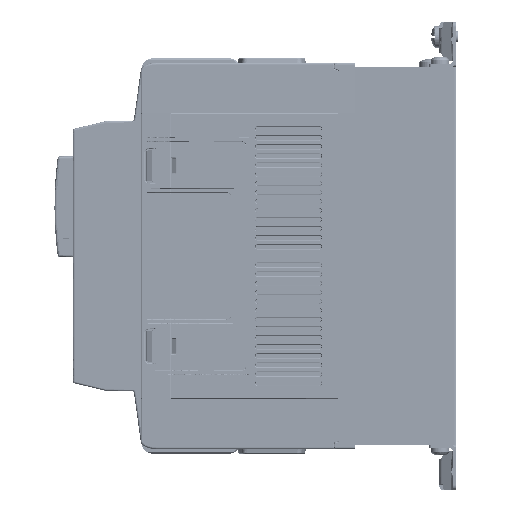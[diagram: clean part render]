
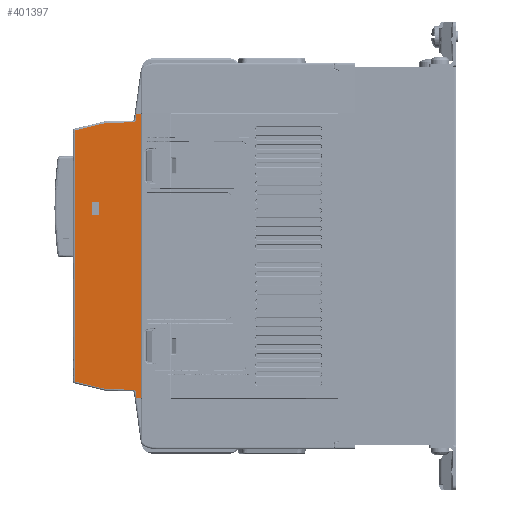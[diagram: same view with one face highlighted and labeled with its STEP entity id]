
A CAD part, front view. The second image highlights one B-rep face of the part: STEP entity #401397.
In plain terms, the highlighted free-form (B-spline) face has degree [1, 1] with [2, 2] control points.
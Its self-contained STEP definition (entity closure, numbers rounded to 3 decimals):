
#400379=CARTESIAN_POINT('',(-139.,1.14,20.58));
#400380=VERTEX_POINT('',#400379);
#400381=CARTESIAN_POINT('',(-140.806,1.155,20.596));
#400382=VERTEX_POINT('',#400381);
#400383=CARTESIAN_POINT('',(-140.806,1.155,20.596));
#400384=DIRECTION('',(1.,-0.009,-0.009));
#400385=VECTOR('',#400384,1.806);
#400386=LINE('',#400383,#400385);
#400387=EDGE_CURVE('',#400380,#400382,#400386,.F.);
#400468=CARTESIAN_POINT('',(-141.202,1.159,23.453));
#400469=VERTEX_POINT('',#400468);
#400470=CARTESIAN_POINT('',(-141.202,1.159,23.453));
#400471=DIRECTION('',(0.137,-0.001,-0.991));
#400472=VECTOR('',#400471,2.885);
#400473=LINE('',#400470,#400472);
#400474=EDGE_CURVE('',#400469,#400382,#400473,.T.);
#400595=CARTESIAN_POINT('',(-142.282,1.168,24.402));
#400596=VERTEX_POINT('',#400595);
#400597=CARTESIAN_POINT('',(-142.292,1.168,23.302));
#400598=DIRECTION('',(0.009,1.,0.));
#400599=DIRECTION('',(1.,-0.009,0.));
#400600=AXIS2_PLACEMENT_3D('',#400597,#400598,#400599);
#400601=ELLIPSE('',#400600,1.1,1.1);
#400602=EDGE_CURVE('',#400596,#400469,#400601,.T.);
#400619=CARTESIAN_POINT('',(-153.706,1.268,24.502));
#400620=VERTEX_POINT('',#400619);
#400621=CARTESIAN_POINT('',(-153.706,1.268,24.502));
#400622=DIRECTION('',(1.,-0.009,-0.009));
#400623=VECTOR('',#400622,11.425);
#400624=LINE('',#400621,#400623);
#400625=EDGE_CURVE('',#400620,#400596,#400624,.T.);
#400649=CARTESIAN_POINT('',(-167.879,1.392,27.904));
#400650=VERTEX_POINT('',#400649);
#400651=CARTESIAN_POINT('',(-167.879,1.392,27.904));
#400652=DIRECTION('',(0.972,-0.008,-0.233));
#400653=VECTOR('',#400652,14.576);
#400654=LINE('',#400651,#400653);
#400655=EDGE_CURVE('',#400650,#400620,#400654,.T.);
#400906=CARTESIAN_POINT('',(-168.032,1.393,28.099));
#400907=VERTEX_POINT('',#400906);
#400908=CARTESIAN_POINT('',(-167.832,1.391,28.099));
#400909=DIRECTION('',(-0.009,-1.,0.));
#400910=DIRECTION('',(-1.,0.009,0.));
#400911=AXIS2_PLACEMENT_3D('',#400908,#400909,#400910);
#400912=ELLIPSE('',#400911,0.2,0.2);
#400913=EDGE_CURVE('',#400907,#400650,#400912,.T.);
#401250=CARTESIAN_POINT('',(-139.,1.14,145.82));
#401251=CARTESIAN_POINT('',(-139.,1.14,20.58));
#401252=CARTESIAN_POINT('',(-168.032,1.393,145.82));
#401253=CARTESIAN_POINT('',(-168.032,1.393,20.58));
#401254=B_SPLINE_SURFACE_WITH_KNOTS('',1,1,((#401250,#401252),(#401251,#401253)),.UNSPECIFIED.,.F.,.F.,.U.,(2,2),(2,2),(0.0,125.239),(0.0,29.033),.UNSPECIFIED.);
#401255=CARTESIAN_POINT('',(-139.,1.14,145.82));
#401256=VERTEX_POINT('',#401255);
#401257=CARTESIAN_POINT('',(-139.,1.14,145.82));
#401258=DIRECTION('',(0.0,0.0,-1.0));
#401259=VECTOR('',#401258,125.239);
#401260=LINE('',#401257,#401259);
#401261=EDGE_CURVE('',#401256,#400380,#401260,.T.);
#401262=ORIENTED_EDGE('',*,*,#401261,.F.);
#401263=CARTESIAN_POINT('',(-140.806,1.155,145.804));
#401264=VERTEX_POINT('',#401263);
#401265=CARTESIAN_POINT('',(-140.806,1.155,145.804));
#401266=DIRECTION('',(1.,-0.009,0.009));
#401267=VECTOR('',#401266,1.806);
#401268=LINE('',#401265,#401267);
#401269=EDGE_CURVE('',#401256,#401264,#401268,.F.);
#401270=ORIENTED_EDGE('',*,*,#401269,.T.);
#401271=CARTESIAN_POINT('',(-141.202,1.159,142.947));
#401272=VERTEX_POINT('',#401271);
#401273=CARTESIAN_POINT('',(-141.202,1.159,142.947));
#401274=DIRECTION('',(0.137,-0.001,0.991));
#401275=VECTOR('',#401274,2.885);
#401276=LINE('',#401273,#401275);
#401277=EDGE_CURVE('',#401272,#401264,#401276,.T.);
#401278=ORIENTED_EDGE('',*,*,#401277,.F.);
#401279=CARTESIAN_POINT('',(-142.282,1.168,141.998));
#401280=VERTEX_POINT('',#401279);
#401281=CARTESIAN_POINT('',(-142.292,1.168,143.098));
#401282=DIRECTION('',(-0.009,-1.,0.));
#401283=DIRECTION('',(1.,-0.009,0.));
#401284=AXIS2_PLACEMENT_3D('',#401281,#401282,#401283);
#401285=ELLIPSE('',#401284,1.1,1.1);
#401286=EDGE_CURVE('',#401280,#401272,#401285,.T.);
#401287=ORIENTED_EDGE('',*,*,#401286,.F.);
#401288=CARTESIAN_POINT('',(-153.706,1.268,141.898));
#401289=VERTEX_POINT('',#401288);
#401290=CARTESIAN_POINT('',(-153.706,1.268,141.898));
#401291=DIRECTION('',(1.,-0.009,0.009));
#401292=VECTOR('',#401291,11.425);
#401293=LINE('',#401290,#401292);
#401294=EDGE_CURVE('',#401289,#401280,#401293,.T.);
#401295=ORIENTED_EDGE('',*,*,#401294,.F.);
#401296=CARTESIAN_POINT('',(-167.879,1.392,138.496));
#401297=VERTEX_POINT('',#401296);
#401298=CARTESIAN_POINT('',(-167.879,1.392,138.496));
#401299=DIRECTION('',(0.972,-0.008,0.233));
#401300=VECTOR('',#401299,14.576);
#401301=LINE('',#401298,#401300);
#401302=EDGE_CURVE('',#401297,#401289,#401301,.T.);
#401303=ORIENTED_EDGE('',*,*,#401302,.F.);
#401304=CARTESIAN_POINT('',(-168.032,1.393,138.301));
#401305=VERTEX_POINT('',#401304);
#401306=CARTESIAN_POINT('',(-167.832,1.391,138.301));
#401307=DIRECTION('',(0.009,1.,0.));
#401308=DIRECTION('',(-1.,0.009,0.));
#401309=AXIS2_PLACEMENT_3D('',#401306,#401307,#401308);
#401310=ELLIPSE('',#401309,0.2,0.2);
#401311=EDGE_CURVE('',#401305,#401297,#401310,.T.);
#401312=ORIENTED_EDGE('',*,*,#401311,.F.);
#401313=CARTESIAN_POINT('',(-168.032,1.393,138.301));
#401314=DIRECTION('',(0.0,0.0,-1.0));
#401315=VECTOR('',#401314,110.202);
#401316=LINE('',#401313,#401315);
#401317=EDGE_CURVE('',#401305,#400907,#401316,.T.);
#401318=ORIENTED_EDGE('',*,*,#401317,.T.);
#401319=ORIENTED_EDGE('',*,*,#400913,.T.);
#401320=ORIENTED_EDGE('',*,*,#400655,.T.);
#401321=ORIENTED_EDGE('',*,*,#400625,.T.);
#401322=ORIENTED_EDGE('',*,*,#400602,.T.);
#401323=ORIENTED_EDGE('',*,*,#400474,.T.);
#401324=ORIENTED_EDGE('',*,*,#400387,.F.);
#401325=EDGE_LOOP('',(#401262,#401270,#401278,#401287,#401295,#401303,#401312,#401318,#401319,#401320,#401321,#401322,#401323,#401324));
#401326=FACE_OUTER_BOUND('',#401325,.T.);
#401327=CARTESIAN_POINT('',(-157.38,1.3,106.545));
#401328=VERTEX_POINT('',#401327);
#401329=CARTESIAN_POINT('',(-157.38,1.3,101.655));
#401330=VERTEX_POINT('',#401329);
#401331=CARTESIAN_POINT('',(-157.38,1.3,106.545));
#401332=DIRECTION('',(0.0,0.0,-1.0));
#401333=VECTOR('',#401332,4.89);
#401334=LINE('',#401331,#401333);
#401335=EDGE_CURVE('',#401328,#401330,#401334,.T.);
#401336=ORIENTED_EDGE('',*,*,#401335,.T.);
#401337=CARTESIAN_POINT('',(-157.88,1.304,101.155));
#401338=VERTEX_POINT('',#401337);
#401339=CARTESIAN_POINT('',(-157.88,1.304,101.655));
#401340=DIRECTION('',(-0.009,-1.,0.));
#401341=DIRECTION('',(0.832,-0.007,-0.555));
#401342=AXIS2_PLACEMENT_3D('',#401339,#401340,#401341);
#401343=ELLIPSE('',#401342,0.5,0.5);
#401344=EDGE_CURVE('',#401330,#401338,#401343,.F.);
#401345=ORIENTED_EDGE('',*,*,#401344,.T.);
#401346=CARTESIAN_POINT('',(-159.77,1.321,101.155));
#401347=VERTEX_POINT('',#401346);
#401348=CARTESIAN_POINT('',(-157.88,1.304,101.155));
#401349=DIRECTION('',(-1.,0.009,0.));
#401350=VECTOR('',#401349,1.89);
#401351=LINE('',#401348,#401350);
#401352=EDGE_CURVE('',#401338,#401347,#401351,.T.);
#401353=ORIENTED_EDGE('',*,*,#401352,.T.);
#401354=CARTESIAN_POINT('',(-160.27,1.325,101.655));
#401355=VERTEX_POINT('',#401354);
#401356=CARTESIAN_POINT('',(-159.77,1.321,101.655));
#401357=DIRECTION('',(-0.009,-1.,0.));
#401358=DIRECTION('',(-0.447,0.004,-0.894));
#401359=AXIS2_PLACEMENT_3D('',#401356,#401357,#401358);
#401360=ELLIPSE('',#401359,0.5,0.5);
#401361=EDGE_CURVE('',#401347,#401355,#401360,.F.);
#401362=ORIENTED_EDGE('',*,*,#401361,.T.);
#401363=CARTESIAN_POINT('',(-160.27,1.325,106.545));
#401364=VERTEX_POINT('',#401363);
#401365=CARTESIAN_POINT('',(-160.27,1.325,101.655));
#401366=DIRECTION('',(0.0,0.0,1.0));
#401367=VECTOR('',#401366,4.889);
#401368=LINE('',#401365,#401367);
#401369=EDGE_CURVE('',#401355,#401364,#401368,.T.);
#401370=ORIENTED_EDGE('',*,*,#401369,.T.);
#401371=CARTESIAN_POINT('',(-159.77,1.321,107.045));
#401372=VERTEX_POINT('',#401371);
#401373=CARTESIAN_POINT('',(-159.77,1.321,106.545));
#401374=DIRECTION('',(0.009,1.,0.));
#401375=DIRECTION('',(-0.447,0.004,0.894));
#401376=AXIS2_PLACEMENT_3D('',#401373,#401374,#401375);
#401377=ELLIPSE('',#401376,0.5,0.5);
#401378=EDGE_CURVE('',#401372,#401364,#401377,.F.);
#401379=ORIENTED_EDGE('',*,*,#401378,.F.);
#401380=CARTESIAN_POINT('',(-157.88,1.304,107.045));
#401381=VERTEX_POINT('',#401380);
#401382=CARTESIAN_POINT('',(-157.88,1.304,107.045));
#401383=DIRECTION('',(-1.,0.009,0.));
#401384=VECTOR('',#401383,1.89);
#401385=LINE('',#401382,#401384);
#401386=EDGE_CURVE('',#401381,#401372,#401385,.T.);
#401387=ORIENTED_EDGE('',*,*,#401386,.F.);
#401388=CARTESIAN_POINT('',(-157.88,1.304,106.545));
#401389=DIRECTION('',(0.009,1.,0.));
#401390=DIRECTION('',(0.832,-0.007,0.555));
#401391=AXIS2_PLACEMENT_3D('',#401388,#401389,#401390);
#401392=ELLIPSE('',#401391,0.5,0.5);
#401393=EDGE_CURVE('',#401328,#401381,#401392,.F.);
#401394=ORIENTED_EDGE('',*,*,#401393,.F.);
#401395=EDGE_LOOP('',(#401336,#401345,#401353,#401362,#401370,#401379,#401387,#401394));
#401396=FACE_BOUND('',#401395,.T.);
#401397=ADVANCED_FACE('',(#401326,#401396),#401254,.F.);
